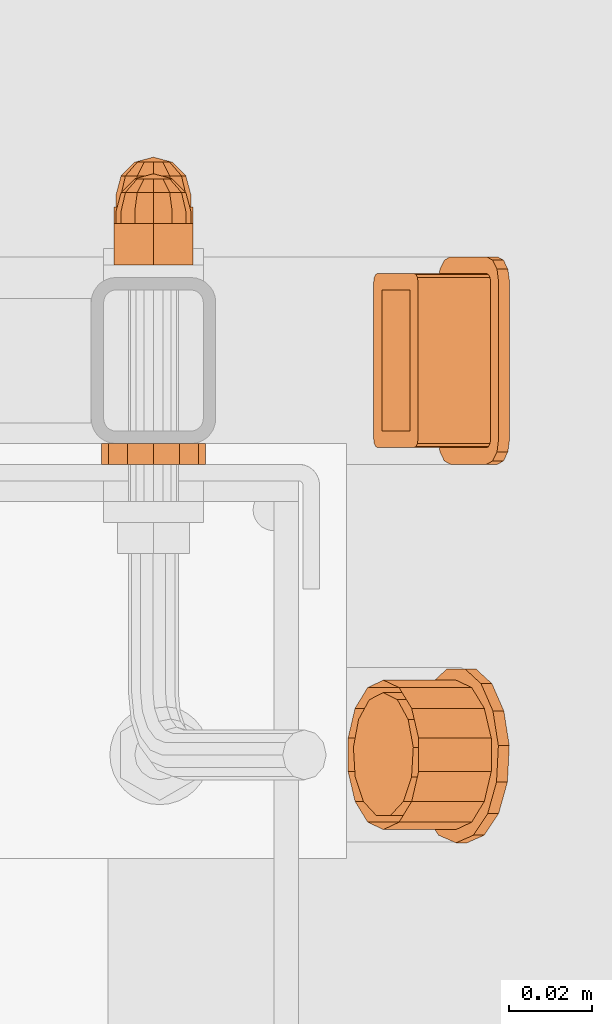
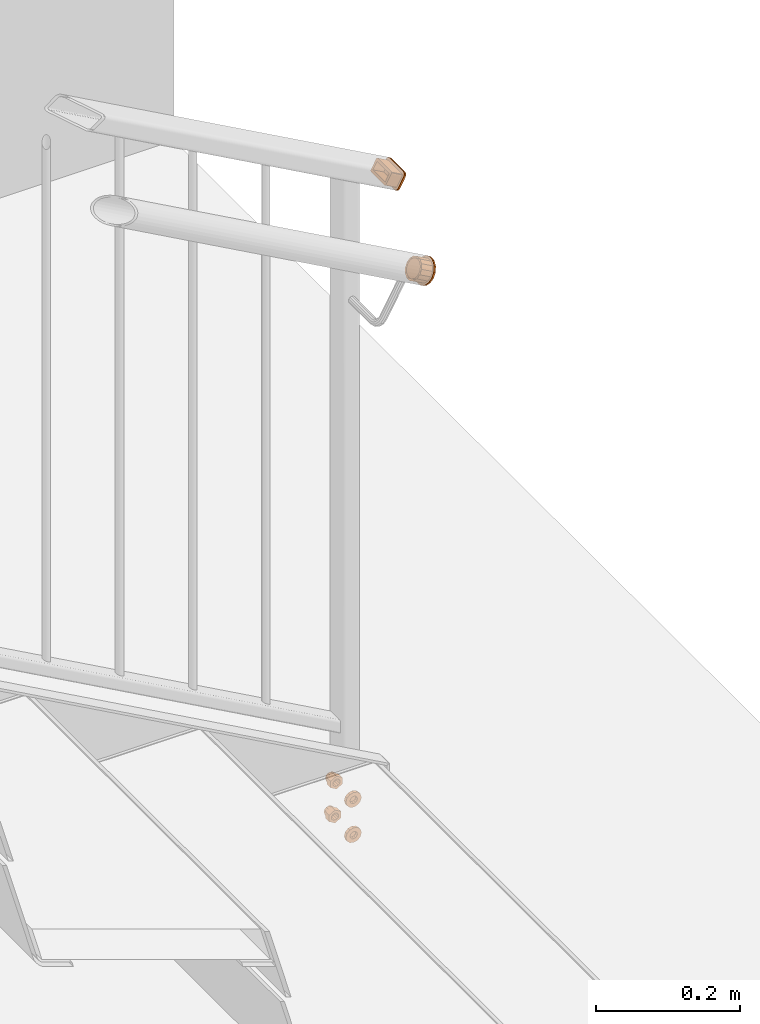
# One storey, part 116 of 116: 6 proxies.
"""IFC2X3 building model written with IfcOpenShell, lengths in millimetres."""

from ifc_helpers import new_model, entity, si_unit, converted_unit, origin_with_axes, place, context, project, spatial, faceted_brep, material, element, save


model = new_model("IFC2X3")

# Units and contexts
model_context = context("Model", 3, precision=1e-09, world=origin_with_axes())
ifc_project = project(units=[si_unit("LENGTHUNIT", "METRE", prefix="MILLI"), si_unit("AREAUNIT", "SQUARE_METRE"), si_unit("VOLUMEUNIT", "CUBIC_METRE"), converted_unit("PLANEANGLEUNIT", "DEGREE", entity("IfcPlaneAngleMeasure", 0.01745329), si_unit("PLANEANGLEUNIT", "RADIAN"), dimensions=[0, 0, 0, 0, 0, 0, 0])], contexts=[model_context])

# Site, building, storey
site_placement = place(None, origin_with_axes())
site = spatial("IfcSite", under=ifc_project, at=site_placement, Name="Site", CompositionType="ELEMENT")
building_placement = place(site_placement, origin_with_axes())
building = spatial("IfcBuilding", under=site, at=building_placement, Name="Struktur 1", CompositionType="ELEMENT")
storey_placement = place(building_placement, origin_with_axes())
storey = spatial("IfcBuildingStorey", under=building, at=storey_placement, Name="Default Storey", CompositionType="ELEMENT", Elevation=0.0)

# Proxies
ifc_material = material(Name="Kein")
proxy_1_placement = place(None, origin_with_axes())
element("IfcBuildingElementProxy", 1, at=proxy_1_placement, inside=storey, material=ifc_material, ObjectType="-", context=model_context, shape_type="Brep", body=[
    faceted_brep([(60571.049134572, 10492.357883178, -1368.0), (60571.049134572, 10482.357883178, -1368.0), (60571.852982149, 10482.357883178, -1371.0), (60571.852982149, 10492.357883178, -1371.0), (60574.049134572, 10482.357883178, -1373.196152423), (60574.049134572, 10492.357883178, -1373.196152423), (60571.852982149, 10492.357883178, -1365.0), (60571.852982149, 10482.357883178, -1365.0), (60567.569265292, 10482.357883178, -1362.526794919), (60567.569265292, 10482.357883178, -1373.473205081), (60577.049134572, 10482.357883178, -1378.946410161), (60586.529003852, 10482.357883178, -1373.473205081), (60586.529003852, 10482.357883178, -1362.526794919), (60577.049134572, 10482.357883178, -1357.053589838), (60574.049134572, 10482.357883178, -1362.803847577), (60577.049134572, 10482.357883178, -1362.0), (60580.049134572, 10482.357883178, -1362.803847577), (60582.245286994, 10482.357883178, -1365.0), (60583.049134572, 10482.357883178, -1368.0), (60582.245286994, 10482.357883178, -1371.0), (60580.049134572, 10482.357883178, -1373.196152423), (60577.049134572, 10482.357883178, -1374.0), (60567.569265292, 10492.357883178, -1362.526794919), (60577.049134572, 10492.357883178, -1357.053589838), (60586.529003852, 10492.357883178, -1362.526794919), (60586.529003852, 10492.357883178, -1373.473205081), (60577.049134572, 10492.357883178, -1378.946410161), (60567.569265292, 10492.357883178, -1373.473205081), (60574.049134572, 10492.357883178, -1362.803847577), (60577.049134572, 10492.357883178, -1374.0), (60577.049134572, 10492.357883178, -1362.0), (60580.049134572, 10492.357883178, -1373.196152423), (60580.049134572, 10492.357883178, -1362.803847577), (60582.245286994, 10492.357883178, -1371.0), (60582.245286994, 10492.357883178, -1365.0), (60583.049134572, 10492.357883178, -1368.0)], [[[0, 1, 2, 3]], [[3, 2, 4, 5]], [[1, 0, 6, 7]], [[8, 9, 10, 11, 12, 13], [7, 14, 15, 16, 17, 18, 19, 20, 21, 4, 2, 1]], [[22, 23, 24, 25, 26, 27]], [[7, 6, 28, 14]], [[22, 27, 9, 8]], [[5, 4, 21, 29]], [[10, 9, 27, 26]], [[14, 28, 30, 15]], [[23, 22, 8, 13]], [[29, 21, 20, 31]], [[11, 10, 26, 25]], [[15, 30, 32, 16]], [[24, 23, 13, 12]], [[31, 20, 19, 33]], [[25, 24, 12, 11]], [[16, 32, 34, 17]], [[33, 19, 18, 35]], [[17, 34, 35, 18]]]),
    faceted_brep([(60577.049134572, 10495.357883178, -1359.0), (60577.049134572, 10492.357883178, -1359.0), (60581.549134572, 10492.357883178, -1360.205771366), (60581.549134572, 10495.357883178, -1360.205771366), (60572.549134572, 10495.357883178, -1360.205771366), (60572.549134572, 10492.357883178, -1360.205771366), (60572.549134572, 10495.357883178, -1375.794228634), (60569.254905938, 10495.357883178, -1372.5), (60568.049134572, 10495.357883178, -1368.0), (60569.254905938, 10495.357883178, -1363.5), (60584.843363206, 10495.357883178, -1363.5), (60586.049134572, 10495.357883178, -1368.0), (60584.843363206, 10495.357883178, -1372.5), (60581.549134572, 10495.357883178, -1375.794228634), (60577.049134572, 10495.357883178, -1377.0), (60581.549134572, 10492.357883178, -1375.794228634), (60584.843363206, 10492.357883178, -1372.5), (60586.049134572, 10492.357883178, -1368.0), (60584.843363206, 10492.357883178, -1363.5), (60569.254905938, 10492.357883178, -1363.5), (60568.049134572, 10492.357883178, -1368.0), (60569.254905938, 10492.357883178, -1372.5), (60572.549134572, 10492.357883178, -1375.794228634), (60577.049134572, 10492.357883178, -1377.0)], [[[0, 1, 2, 3]], [[1, 0, 4, 5]], [[6, 7, 8, 9, 4, 0, 3, 10, 11, 12, 13, 14]], [[15, 16, 17, 18, 2, 1, 5, 19, 20, 21, 22, 23]], [[3, 2, 18, 10]], [[5, 4, 9, 19]], [[10, 18, 17, 11]], [[19, 9, 8, 20]], [[22, 6, 14, 23]], [[7, 21, 20, 8]], [[6, 22, 21, 7]], [[11, 17, 16, 12]], [[23, 14, 13, 15]], [[12, 16, 15, 13]]]),
    faceted_brep([(60570.299134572, 10499.857883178, -1364.102885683), (60569.254905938, 10495.357883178, -1363.5), (60572.549134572, 10495.357883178, -1360.205771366), (60573.152020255, 10499.857883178, -1361.25), (60581.549134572, 10495.357883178, -1375.794228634), (60584.843363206, 10495.357883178, -1372.5), (60586.049134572, 10495.357883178, -1368.0), (60584.843363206, 10495.357883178, -1363.5), (60581.549134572, 10495.357883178, -1360.205771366), (60577.049134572, 10495.357883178, -1359.0), (60568.049134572, 10495.357883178, -1368.0), (60569.254905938, 10495.357883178, -1372.5), (60572.549134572, 10495.357883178, -1375.794228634), (60577.049134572, 10495.357883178, -1377.0), (60577.049134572, 10499.857883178, -1360.205771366), (60572.549134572, 10503.152111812, -1368.0), (60569.254905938, 10499.857883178, -1368.0), (60573.152020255, 10503.152111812, -1365.75), (60580.946248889, 10499.857883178, -1361.25), (60574.799134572, 10503.152111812, -1364.102885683), (60573.152020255, 10503.152111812, -1370.25), (60570.299134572, 10499.857883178, -1371.897114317), (60577.049134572, 10503.152111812, -1363.5), (60577.049134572, 10504.357883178, -1368.0), (60574.799134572, 10503.152111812, -1371.897114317), (60573.152020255, 10499.857883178, -1374.75), (60577.049134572, 10499.857883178, -1375.794228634), (60583.799134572, 10499.857883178, -1364.102885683), (60579.299134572, 10503.152111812, -1364.102885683), (60577.049134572, 10503.152111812, -1372.5), (60580.946248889, 10499.857883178, -1374.75), (60579.299134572, 10503.152111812, -1371.897114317), (60584.843363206, 10499.857883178, -1368.0), (60580.946248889, 10503.152111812, -1365.75), (60583.799134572, 10499.857883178, -1371.897114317), (60580.946248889, 10503.152111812, -1370.25), (60581.549134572, 10503.152111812, -1368.0)], [[[0, 1, 2, 3]], [[4, 5, 6, 7, 8, 9, 2, 1, 10, 11, 12, 13]], [[3, 2, 9, 14]], [[15, 16, 0, 17]], [[1, 0, 16, 10]], [[14, 9, 8, 18]], [[17, 0, 3, 19]], [[16, 15, 20, 21]], [[19, 3, 14, 22]], [[17, 23, 15]], [[24, 25, 21, 20]], [[15, 23, 20]], [[12, 25, 26, 13]], [[11, 21, 25, 12]], [[10, 16, 21, 11]], [[18, 8, 7, 27]], [[22, 14, 18, 28]], [[19, 23, 17]], [[29, 26, 25, 24]], [[20, 23, 24]], [[22, 23, 19]], [[13, 26, 30, 4]], [[26, 29, 31, 30]], [[24, 23, 29]], [[27, 7, 6, 32]], [[28, 18, 27, 33]], [[28, 23, 22]], [[29, 23, 31]], [[33, 23, 28]], [[4, 30, 34, 5]], [[30, 31, 35, 34]], [[31, 23, 35]], [[32, 6, 5, 34]], [[33, 27, 32, 36]], [[36, 23, 33]], [[35, 23, 36]], [[34, 35, 36, 32]]]),
])
proxy_2_placement = place(None, origin_with_axes())
element("IfcBuildingElementProxy", 2, at=proxy_2_placement, inside=storey, material=ifc_material, ObjectType="-", context=model_context, shape_type="Brep", body=[
    faceted_brep([(60571.049134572, 10488.357883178, -1308.0), (60571.049134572, 10478.357883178, -1308.0), (60571.852982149, 10478.357883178, -1311.0), (60571.852982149, 10488.357883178, -1311.0), (60574.049134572, 10478.357883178, -1313.196152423), (60574.049134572, 10488.357883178, -1313.196152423), (60571.852982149, 10488.357883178, -1305.0), (60571.852982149, 10478.357883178, -1305.0), (60567.569265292, 10478.357883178, -1302.526794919), (60567.569265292, 10478.357883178, -1313.473205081), (60577.049134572, 10478.357883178, -1318.946410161), (60586.529003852, 10478.357883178, -1313.473205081), (60586.529003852, 10478.357883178, -1302.526794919), (60577.049134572, 10478.357883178, -1297.053589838), (60574.049134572, 10478.357883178, -1302.803847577), (60577.049134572, 10478.357883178, -1302.0), (60580.049134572, 10478.357883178, -1302.803847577), (60582.245286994, 10478.357883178, -1305.0), (60583.049134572, 10478.357883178, -1308.0), (60582.245286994, 10478.357883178, -1311.0), (60580.049134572, 10478.357883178, -1313.196152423), (60577.049134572, 10478.357883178, -1314.0), (60567.569265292, 10488.357883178, -1302.526794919), (60577.049134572, 10488.357883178, -1297.053589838), (60586.529003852, 10488.357883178, -1302.526794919), (60586.529003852, 10488.357883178, -1313.473205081), (60577.049134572, 10488.357883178, -1318.946410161), (60567.569265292, 10488.357883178, -1313.473205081), (60574.049134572, 10488.357883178, -1302.803847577), (60577.049134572, 10488.357883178, -1314.0), (60577.049134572, 10488.357883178, -1302.0), (60580.049134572, 10488.357883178, -1313.196152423), (60580.049134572, 10488.357883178, -1302.803847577), (60582.245286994, 10488.357883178, -1311.0), (60582.245286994, 10488.357883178, -1305.0), (60583.049134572, 10488.357883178, -1308.0)], [[[0, 1, 2, 3]], [[3, 2, 4, 5]], [[1, 0, 6, 7]], [[8, 9, 10, 11, 12, 13], [7, 14, 15, 16, 17, 18, 19, 20, 21, 4, 2, 1]], [[22, 23, 24, 25, 26, 27]], [[7, 6, 28, 14]], [[22, 27, 9, 8]], [[5, 4, 21, 29]], [[10, 9, 27, 26]], [[14, 28, 30, 15]], [[23, 22, 8, 13]], [[29, 21, 20, 31]], [[11, 10, 26, 25]], [[15, 30, 32, 16]], [[24, 23, 13, 12]], [[31, 20, 19, 33]], [[25, 24, 12, 11]], [[16, 32, 34, 17]], [[33, 19, 18, 35]], [[17, 34, 35, 18]]]),
    faceted_brep([(60577.049134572, 10491.357883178, -1299.0), (60577.049134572, 10488.357883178, -1299.0), (60581.549134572, 10488.357883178, -1300.205771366), (60581.549134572, 10491.357883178, -1300.205771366), (60572.549134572, 10491.357883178, -1300.205771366), (60572.549134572, 10488.357883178, -1300.205771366), (60572.549134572, 10491.357883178, -1315.794228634), (60569.254905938, 10491.357883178, -1312.5), (60568.049134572, 10491.357883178, -1308.0), (60569.254905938, 10491.357883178, -1303.5), (60584.843363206, 10491.357883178, -1303.5), (60586.049134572, 10491.357883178, -1308.0), (60584.843363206, 10491.357883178, -1312.5), (60581.549134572, 10491.357883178, -1315.794228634), (60577.049134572, 10491.357883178, -1317.0), (60581.549134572, 10488.357883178, -1315.794228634), (60584.843363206, 10488.357883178, -1312.5), (60586.049134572, 10488.357883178, -1308.0), (60584.843363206, 10488.357883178, -1303.5), (60569.254905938, 10488.357883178, -1303.5), (60568.049134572, 10488.357883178, -1308.0), (60569.254905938, 10488.357883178, -1312.5), (60572.549134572, 10488.357883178, -1315.794228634), (60577.049134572, 10488.357883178, -1317.0)], [[[0, 1, 2, 3]], [[1, 0, 4, 5]], [[6, 7, 8, 9, 4, 0, 3, 10, 11, 12, 13, 14]], [[15, 16, 17, 18, 2, 1, 5, 19, 20, 21, 22, 23]], [[3, 2, 18, 10]], [[5, 4, 9, 19]], [[10, 18, 17, 11]], [[19, 9, 8, 20]], [[22, 6, 14, 23]], [[7, 21, 20, 8]], [[6, 22, 21, 7]], [[11, 17, 16, 12]], [[23, 14, 13, 15]], [[12, 16, 15, 13]]]),
    faceted_brep([(60570.299134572, 10495.857883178, -1304.102885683), (60569.254905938, 10491.357883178, -1303.5), (60572.549134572, 10491.357883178, -1300.205771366), (60573.152020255, 10495.857883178, -1301.25), (60581.549134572, 10491.357883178, -1315.794228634), (60584.843363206, 10491.357883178, -1312.5), (60586.049134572, 10491.357883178, -1308.0), (60584.843363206, 10491.357883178, -1303.5), (60581.549134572, 10491.357883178, -1300.205771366), (60577.049134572, 10491.357883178, -1299.0), (60568.049134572, 10491.357883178, -1308.0), (60569.254905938, 10491.357883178, -1312.5), (60572.549134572, 10491.357883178, -1315.794228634), (60577.049134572, 10491.357883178, -1317.0), (60577.049134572, 10495.857883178, -1300.205771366), (60572.549134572, 10499.152111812, -1308.0), (60569.254905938, 10495.857883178, -1308.0), (60573.152020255, 10499.152111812, -1305.75), (60580.946248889, 10495.857883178, -1301.25), (60574.799134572, 10499.152111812, -1304.102885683), (60573.152020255, 10499.152111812, -1310.25), (60570.299134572, 10495.857883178, -1311.897114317), (60577.049134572, 10499.152111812, -1303.5), (60577.049134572, 10500.357883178, -1308.0), (60574.799134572, 10499.152111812, -1311.897114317), (60573.152020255, 10495.857883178, -1314.75), (60577.049134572, 10495.857883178, -1315.794228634), (60583.799134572, 10495.857883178, -1304.102885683), (60579.299134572, 10499.152111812, -1304.102885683), (60577.049134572, 10499.152111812, -1312.5), (60580.946248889, 10495.857883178, -1314.75), (60579.299134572, 10499.152111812, -1311.897114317), (60584.843363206, 10495.857883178, -1308.0), (60580.946248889, 10499.152111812, -1305.75), (60583.799134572, 10495.857883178, -1311.897114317), (60580.946248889, 10499.152111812, -1310.25), (60581.549134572, 10499.152111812, -1308.0)], [[[0, 1, 2, 3]], [[4, 5, 6, 7, 8, 9, 2, 1, 10, 11, 12, 13]], [[3, 2, 9, 14]], [[15, 16, 0, 17]], [[1, 0, 16, 10]], [[14, 9, 8, 18]], [[17, 0, 3, 19]], [[16, 15, 20, 21]], [[19, 3, 14, 22]], [[17, 23, 15]], [[24, 25, 21, 20]], [[15, 23, 20]], [[12, 25, 26, 13]], [[11, 21, 25, 12]], [[10, 16, 21, 11]], [[18, 8, 7, 27]], [[22, 14, 18, 28]], [[19, 23, 17]], [[29, 26, 25, 24]], [[20, 23, 24]], [[22, 23, 19]], [[13, 26, 30, 4]], [[26, 29, 31, 30]], [[24, 23, 29]], [[27, 7, 6, 32]], [[28, 18, 27, 33]], [[28, 23, 22]], [[29, 23, 31]], [[33, 23, 28]], [[4, 30, 34, 5]], [[30, 31, 35, 34]], [[31, 23, 35]], [[32, 6, 5, 34]], [[33, 27, 32, 36]], [[36, 23, 33]], [[35, 23, 36]], [[34, 35, 36, 32]]]),
])
proxy_3_placement = place(None, origin_with_axes())
element("IfcBuildingElementProxy", 3, at=proxy_3_placement, inside=storey, material=ifc_material, ObjectType="-", context=model_context, shape_type="Brep", body=[
    faceted_brep([(60574.049134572, 10435.357883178, -1373.196152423), (60577.049134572, 10435.357883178, -1374.0), (60580.049134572, 10435.357883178, -1373.196152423), (60582.245286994, 10435.357883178, -1371.0), (60583.049134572, 10435.357883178, -1368.0), (60582.245286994, 10435.357883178, -1365.0), (60580.049134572, 10435.357883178, -1362.803847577), (60577.049134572, 10435.357883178, -1362.0), (60574.049134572, 10435.357883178, -1362.803847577), (60571.852982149, 10435.357883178, -1365.0), (60571.049134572, 10435.357883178, -1368.0), (60571.852982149, 10435.357883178, -1371.0), (60566.223817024, 10430.357883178, -1374.25), (60566.223817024, 10435.357883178, -1374.25), (60570.799134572, 10435.357883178, -1378.825317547), (60570.799134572, 10430.357883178, -1378.825317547), (60577.049134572, 10430.357883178, -1380.5), (60583.299134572, 10430.357883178, -1378.825317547), (60587.874452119, 10430.357883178, -1374.25), (60589.549134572, 10430.357883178, -1368.0), (60587.874452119, 10430.357883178, -1361.75), (60583.299134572, 10430.357883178, -1357.174682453), (60577.049134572, 10430.357883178, -1355.5), (60570.799134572, 10430.357883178, -1357.174682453), (60566.223817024, 10430.357883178, -1361.75), (60564.549134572, 10430.357883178, -1368.0), (60571.049134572, 10430.357883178, -1368.0), (60571.852982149, 10430.357883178, -1365.0), (60574.049134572, 10430.357883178, -1362.803847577), (60577.049134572, 10430.357883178, -1362.0), (60580.049134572, 10430.357883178, -1362.803847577), (60582.245286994, 10430.357883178, -1365.0), (60583.049134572, 10430.357883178, -1368.0), (60582.245286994, 10430.357883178, -1371.0), (60580.049134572, 10430.357883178, -1373.196152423), (60577.049134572, 10430.357883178, -1374.0), (60574.049134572, 10430.357883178, -1373.196152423), (60571.852982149, 10430.357883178, -1371.0), (60564.549134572, 10435.357883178, -1368.0), (60577.049134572, 10435.357883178, -1380.5), (60566.223817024, 10435.357883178, -1361.75), (60583.299134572, 10435.357883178, -1378.825317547), (60570.799134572, 10435.357883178, -1357.174682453), (60587.874452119, 10435.357883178, -1374.25), (60577.049134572, 10435.357883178, -1355.5), (60589.549134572, 10435.357883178, -1368.0), (60583.299134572, 10435.357883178, -1357.174682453), (60587.874452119, 10435.357883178, -1361.75)], [[[0, 1, 2, 3, 4, 5, 6, 7, 8, 9, 10, 11]], [[12, 13, 14, 15]], [[12, 15, 16, 17, 18, 19, 20, 21, 22, 23, 24, 25], [26, 27, 28, 29, 30, 31, 32, 33, 34, 35, 36, 37]], [[11, 37, 36, 0]], [[13, 12, 25, 38]], [[37, 11, 10, 26]], [[0, 36, 35, 1]], [[15, 14, 39, 16]], [[38, 25, 24, 40]], [[26, 10, 9, 27]], [[1, 35, 34, 2]], [[16, 39, 41, 17]], [[40, 24, 23, 42]], [[27, 9, 8, 28]], [[33, 3, 2, 34]], [[17, 41, 43, 18]], [[3, 33, 32, 4]], [[42, 23, 22, 44]], [[28, 8, 7, 29]], [[31, 5, 4, 32]], [[18, 43, 45, 19]], [[6, 30, 29, 7]], [[5, 31, 30, 6]], [[44, 22, 21, 46]], [[19, 45, 47, 20]], [[46, 21, 20, 47]]]),
])
proxy_4_placement = place(None, origin_with_axes())
element("IfcBuildingElementProxy", 4, at=proxy_4_placement, inside=storey, material=ifc_material, ObjectType="-", context=model_context, shape_type="Brep", body=[
    faceted_brep([(60574.049134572, 10435.357883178, -1313.196152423), (60577.049134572, 10435.357883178, -1314.0), (60580.049134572, 10435.357883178, -1313.196152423), (60582.245286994, 10435.357883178, -1311.0), (60583.049134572, 10435.357883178, -1308.0), (60582.245286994, 10435.357883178, -1305.0), (60580.049134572, 10435.357883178, -1302.803847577), (60577.049134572, 10435.357883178, -1302.0), (60574.049134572, 10435.357883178, -1302.803847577), (60571.852982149, 10435.357883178, -1305.0), (60571.049134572, 10435.357883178, -1308.0), (60571.852982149, 10435.357883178, -1311.0), (60566.223817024, 10430.357883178, -1314.25), (60566.223817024, 10435.357883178, -1314.25), (60570.799134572, 10435.357883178, -1318.825317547), (60570.799134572, 10430.357883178, -1318.825317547), (60577.049134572, 10430.357883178, -1320.5), (60583.299134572, 10430.357883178, -1318.825317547), (60587.874452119, 10430.357883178, -1314.25), (60589.549134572, 10430.357883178, -1308.0), (60587.874452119, 10430.357883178, -1301.75), (60583.299134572, 10430.357883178, -1297.174682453), (60577.049134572, 10430.357883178, -1295.5), (60570.799134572, 10430.357883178, -1297.174682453), (60566.223817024, 10430.357883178, -1301.75), (60564.549134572, 10430.357883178, -1308.0), (60571.049134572, 10430.357883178, -1308.0), (60571.852982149, 10430.357883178, -1305.0), (60574.049134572, 10430.357883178, -1302.803847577), (60577.049134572, 10430.357883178, -1302.0), (60580.049134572, 10430.357883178, -1302.803847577), (60582.245286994, 10430.357883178, -1305.0), (60583.049134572, 10430.357883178, -1308.0), (60582.245286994, 10430.357883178, -1311.0), (60580.049134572, 10430.357883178, -1313.196152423), (60577.049134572, 10430.357883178, -1314.0), (60574.049134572, 10430.357883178, -1313.196152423), (60571.852982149, 10430.357883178, -1311.0), (60564.549134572, 10435.357883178, -1308.0), (60577.049134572, 10435.357883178, -1320.5), (60566.223817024, 10435.357883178, -1301.75), (60583.299134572, 10435.357883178, -1318.825317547), (60570.799134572, 10435.357883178, -1297.174682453), (60587.874452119, 10435.357883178, -1314.25), (60577.049134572, 10435.357883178, -1295.5), (60589.549134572, 10435.357883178, -1308.0), (60583.299134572, 10435.357883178, -1297.174682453), (60587.874452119, 10435.357883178, -1301.75)], [[[0, 1, 2, 3, 4, 5, 6, 7, 8, 9, 10, 11]], [[12, 13, 14, 15]], [[12, 15, 16, 17, 18, 19, 20, 21, 22, 23, 24, 25], [26, 27, 28, 29, 30, 31, 32, 33, 34, 35, 36, 37]], [[11, 37, 36, 0]], [[13, 12, 25, 38]], [[37, 11, 10, 26]], [[0, 36, 35, 1]], [[15, 14, 39, 16]], [[38, 25, 24, 40]], [[26, 10, 9, 27]], [[1, 35, 34, 2]], [[16, 39, 41, 17]], [[40, 24, 23, 42]], [[27, 9, 8, 28]], [[33, 3, 2, 34]], [[17, 41, 43, 18]], [[3, 33, 32, 4]], [[42, 23, 22, 44]], [[28, 8, 7, 29]], [[31, 5, 4, 32]], [[18, 43, 45, 19]], [[6, 30, 29, 7]], [[5, 31, 30, 6]], [[44, 22, 21, 46]], [[19, 45, 47, 20]], [[46, 21, 20, 47]]]),
])
proxy_5_placement = place(None, origin_with_axes())
element("IfcBuildingElementProxy", 5, at=proxy_5_placement, inside=storey, material=ifc_material, ObjectType="-", context=model_context, shape_type="Brep", body=[
    faceted_brep([(60631.078568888, 10476.357883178, -285.966070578), (60639.796254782, 10476.357883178, -270.217992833), (60657.294118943, 10476.357883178, -279.904310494), (60648.576433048, 10476.357883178, -295.652388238), (60640.280570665, 10476.089933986, -269.343099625), (60657.778434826, 10476.089933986, -279.029417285), (60658.132978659, 10475.357883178, -278.388951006), (60640.635114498, 10475.357883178, -268.702633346), (60640.764886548, 10474.357883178, -268.468206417), (60658.262750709, 10474.357883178, -278.154524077), (60648.092117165, 10476.089933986, -296.527281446), (60630.594253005, 10476.089933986, -286.840963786), (60647.737573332, 10475.357883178, -297.167747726), (60630.239709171, 10475.357883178, -287.481430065), (60630.109937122, 10474.357883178, -287.715856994), (60630.109937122, 10436.357883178, -287.715856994), (60630.239709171, 10435.357883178, -287.481430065), (60630.594253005, 10434.625832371, -286.840963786), (60631.078568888, 10434.357883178, -285.966070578), (60639.796254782, 10434.357883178, -270.217992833), (60640.280570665, 10434.625832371, -269.343099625), (60640.635114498, 10435.357883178, -268.702633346), (60640.764886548, 10436.357883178, -268.468206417), (60638.827623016, 10472.357883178, -271.967779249), (60638.827623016, 10438.357883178, -271.967779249), (60632.047200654, 10438.357883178, -284.216284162), (60632.047200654, 10472.357883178, -284.216284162), (60658.262750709, 10436.357883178, -278.154524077), (60658.132978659, 10435.357883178, -278.388951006), (60657.778434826, 10434.625832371, -279.029417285), (60657.294118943, 10434.357883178, -279.904310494), (60648.576433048, 10434.357883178, -295.652388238), (60648.092117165, 10434.625832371, -296.527281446), (60647.737573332, 10435.357883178, -297.167747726), (60647.607801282, 10436.357883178, -297.402174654), (60647.607801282, 10474.357883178, -297.402174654), (60656.325487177, 10472.357883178, -281.65409691), (60649.545064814, 10472.357883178, -293.902601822), (60649.545064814, 10438.357883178, -293.902601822), (60656.325487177, 10438.357883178, -281.65409691)], [[[0, 1, 2, 3]], [[2, 1, 4, 5]], [[6, 7, 8, 9]], [[5, 4, 7, 6]], [[0, 3, 10, 11]], [[11, 10, 12, 13]], [[7, 4, 1, 0, 11, 13, 14, 15, 16, 17, 18, 19, 20, 21, 22, 8], [23, 24, 25, 26]], [[3, 2, 5, 6, 9, 27, 28, 29, 30, 31, 32, 33, 34, 35, 12, 10], [36, 37, 38, 39]], [[21, 28, 27, 22]], [[8, 22, 27, 9]], [[37, 36, 23, 26]], [[28, 21, 20, 29]], [[13, 12, 35, 14]], [[26, 25, 38, 37]], [[15, 14, 35, 34]], [[15, 34, 33, 16]], [[36, 39, 24, 23]], [[29, 20, 19, 30]], [[16, 33, 32, 17]], [[25, 24, 39, 38]], [[19, 18, 31, 30]], [[17, 32, 31, 18]]]),
    faceted_brep([(60648.295217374, 10474.357883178, -302.354695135), (60645.67053775, 10474.357883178, -300.901747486), (60646.059853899, 10477.357883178, -300.198466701), (60648.684533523, 10477.357883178, -301.65141435), (60647.123485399, 10479.554035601, -298.277067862), (60649.748165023, 10479.554035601, -299.730015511), (60645.67053775, 10436.357883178, -300.901747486), (60648.295217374, 10436.357883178, -302.354695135), (60648.684533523, 10433.357883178, -301.65141435), (60646.059853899, 10433.357883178, -300.198466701), (60649.748165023, 10431.161730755, -299.730015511), (60647.123485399, 10431.161730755, -298.277067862), (60648.576433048, 10480.357883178, -295.652388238), (60648.576433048, 10430.357883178, -295.652388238), (60657.294118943, 10430.357883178, -279.904310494), (60658.747066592, 10431.161730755, -277.279630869), (60659.810698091, 10433.357883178, -275.358232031), (60660.200014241, 10436.357883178, -274.654951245), (60660.200014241, 10474.357883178, -274.654951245), (60659.810698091, 10477.357883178, -275.358232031), (60658.747066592, 10479.554035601, -277.279630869), (60657.294118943, 10480.357883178, -279.904310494), (60651.201112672, 10430.357883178, -297.105335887), (60651.201112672, 10480.357883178, -297.105335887), (60659.918798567, 10480.357883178, -281.357258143), (60661.371746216, 10479.554035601, -278.732578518), (60662.435377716, 10477.357883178, -276.81117968), (60662.824693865, 10474.357883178, -276.107898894), (60662.824693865, 10436.357883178, -276.107898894), (60662.435377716, 10433.357883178, -276.81117968), (60661.371746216, 10431.161730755, -278.732578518), (60659.918798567, 10430.357883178, -281.357258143)], [[[0, 1, 2, 3]], [[3, 2, 4, 5]], [[6, 7, 8, 9]], [[9, 8, 10, 11]], [[12, 4, 2, 1, 6, 9, 11, 13, 14, 15, 16, 17, 18, 19, 20, 21]], [[0, 7, 6, 1]], [[22, 10, 8, 7, 0, 3, 5, 23, 24, 25, 26, 27, 28, 29, 30, 31]], [[5, 4, 12, 23]], [[12, 21, 24, 23]], [[11, 10, 22, 13]], [[19, 26, 25, 20]], [[20, 25, 24, 21]], [[26, 19, 18, 27]], [[22, 31, 14, 13]], [[18, 17, 28, 27]], [[14, 31, 30, 15]], [[16, 29, 28, 17]], [[15, 30, 29, 16]]]),
])
proxy_6_placement = place(None, origin_with_axes())
element("IfcBuildingElementProxy", 6, at=proxy_6_placement, inside=storey, material=ifc_material, ObjectType="-", context=model_context, shape_type="Brep", body=[
    faceted_brep([(60654.108684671, 10340.990719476, -385.658643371), (60649.932517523, 10339.157883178, -393.202687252), (60652.557197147, 10339.157883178, -394.655634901), (60656.733364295, 10340.990719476, -387.11159102), (60643.897434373, 10377.509043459, -404.104772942), (60641.04060453, 10370.957883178, -409.26549782), (60639.721267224, 10362.573886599, -411.648816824), (60640.167547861, 10353.806722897, -410.842632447), (60642.302280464, 10346.172314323, -406.986341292), (60645.756350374, 10340.990719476, -400.746731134), (60657.562754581, 10346.172314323, -379.419033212), (60659.697487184, 10353.806722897, -375.562742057), (60660.143767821, 10362.573886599, -374.75655768), (60658.824430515, 10370.957883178, -377.139876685), (60655.967600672, 10377.509043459, -382.300601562), (60652.067250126, 10381.094612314, -389.346396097), (60647.797784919, 10381.094612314, -397.058978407), (60648.381029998, 10340.990719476, -402.199678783), (60660.187434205, 10346.172314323, -380.871980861), (60654.69192975, 10381.094612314, -390.799343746), (60658.592280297, 10377.509043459, -383.753549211), (60661.449110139, 10370.957883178, -378.592824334), (60662.768447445, 10362.573886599, -376.20950533), (60662.322166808, 10353.806722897, -377.015689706), (60644.926960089, 10346.172314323, -408.439288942), (60642.792227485, 10353.806722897, -412.295580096), (60642.345946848, 10362.573886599, -413.101764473), (60643.665284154, 10370.957883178, -410.718445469), (60646.522113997, 10377.509043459, -405.557720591), (60650.422464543, 10381.094612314, -398.511926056)], [[[0, 1, 2, 3]], [[4, 5, 6, 7, 8, 9, 1, 0, 10, 11, 12, 13, 14, 15, 16]], [[17, 2, 1, 9]], [[10, 0, 3, 18]], [[19, 20, 21, 22, 23, 18, 3, 2, 17, 24, 25, 26, 27, 28, 29]], [[24, 17, 9, 8]], [[11, 10, 18, 23]], [[25, 24, 8, 7]], [[12, 11, 23, 22]], [[26, 25, 7, 6]], [[13, 12, 22, 21]], [[4, 16, 29, 28]], [[27, 26, 6, 5]], [[14, 13, 21, 20]], [[19, 29, 16, 15]], [[15, 14, 20, 19]], [[5, 4, 28, 27]]]),
    faceted_brep([(60626.455890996, 10368.878854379, -394.316714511), (60629.058561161, 10373.639723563, -389.615116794), (60632.434653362, 10375.357883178, -383.516369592), (60635.810745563, 10373.639723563, -377.417622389), (60638.413415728, 10368.878854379, -372.716024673), (60639.646423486, 10362.165933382, -370.488655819), (60639.22730162, 10355.038809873, -371.24577919), (60637.252065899, 10349.130221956, -374.813946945), (60634.173219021, 10345.793755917, -380.375734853), (60630.696087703, 10345.793755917, -386.657004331), (60627.617240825, 10349.130221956, -392.218792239), (60625.642005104, 10355.038809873, -395.786959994), (60625.222883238, 10362.165933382, -396.544083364), (60641.433402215, 10364.363259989, -408.555927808), (60623.935538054, 10364.363259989, -398.869610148), (60625.618892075, 10371.580699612, -395.828712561), (60643.116756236, 10371.580699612, -405.515030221), (60642.720747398, 10362.165933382, -406.230401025), (60643.953755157, 10368.878854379, -404.003032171), (60646.15005537, 10376.5753228, -400.035522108), (60649.932517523, 10378.357883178, -393.202687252), (60653.714979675, 10376.5753228, -386.369852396), (60656.748278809, 10371.580699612, -380.890344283), (60658.431632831, 10364.363259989, -377.849446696), (60658.431632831, 10356.352506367, -377.849446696), (60656.748278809, 10349.135066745, -380.890344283), (60653.714979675, 10344.140443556, -386.369852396), (60649.932517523, 10342.357883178, -393.202687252), (60646.15005537, 10344.140443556, -400.035522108), (60643.116756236, 10349.135066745, -405.515030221), (60641.433402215, 10356.352506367, -408.555927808), (60646.556425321, 10373.639723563, -399.301434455), (60643.139869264, 10355.038809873, -405.473277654), (60645.115104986, 10349.130221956, -401.905109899), (60648.193951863, 10345.793755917, -396.343321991), (60651.671083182, 10345.793755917, -390.062052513), (60654.749930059, 10349.130221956, -384.500264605), (60656.725165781, 10355.038809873, -380.93209685), (60657.144287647, 10362.165933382, -380.17497348), (60655.911279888, 10368.878854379, -382.402342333), (60653.308609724, 10373.639723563, -387.10394005), (60649.932517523, 10375.357883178, -393.202687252), (60623.935538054, 10356.352506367, -398.869610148), (60628.65219121, 10376.5753228, -390.349204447), (60632.434653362, 10378.357883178, -383.516369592), (60625.618892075, 10349.135066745, -395.828712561), (60636.217115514, 10376.5753228, -376.683534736), (60628.65219121, 10344.140443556, -390.349204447), (60639.250414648, 10371.580699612, -371.204026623), (60632.434653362, 10342.357883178, -383.516369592), (60640.93376867, 10364.363259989, -368.163129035), (60636.217115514, 10344.140443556, -376.683534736), (60640.93376867, 10356.352506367, -368.163129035), (60639.250414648, 10349.135066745, -371.204026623)], [[[0, 1, 2, 3, 4, 5, 6, 7, 8, 9, 10, 11, 12]], [[13, 14, 15, 16]], [[12, 17, 18, 0]], [[19, 20, 21, 22, 23, 24, 25, 26, 27, 28, 29, 30, 13, 16], [31, 18, 17, 32, 33, 34, 35, 36, 37, 38, 39, 40, 41]], [[14, 13, 30, 42]], [[17, 12, 11, 32]], [[43, 19, 16, 15]], [[0, 18, 31, 1]], [[19, 43, 44, 20]], [[42, 30, 29, 45]], [[32, 11, 10, 33]], [[20, 44, 46, 21]], [[1, 31, 41, 2]], [[45, 29, 28, 47]], [[33, 10, 9, 34]], [[21, 46, 48, 22]], [[2, 41, 40, 3]], [[47, 28, 27, 49]], [[34, 9, 8, 35]], [[22, 48, 50, 23]], [[3, 40, 39, 4]], [[49, 27, 26, 51]], [[35, 8, 7, 36]], [[23, 50, 52, 24]], [[4, 39, 38, 5]], [[51, 26, 25, 53]], [[37, 6, 5, 38]], [[36, 7, 6, 37]], [[24, 52, 53, 25]]]),
])

save(model, "model.ifc")
